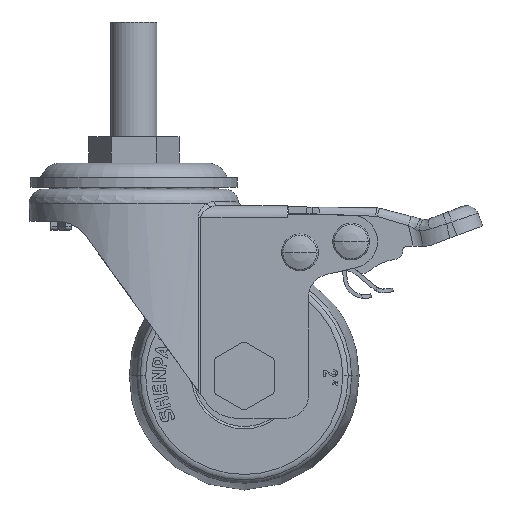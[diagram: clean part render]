
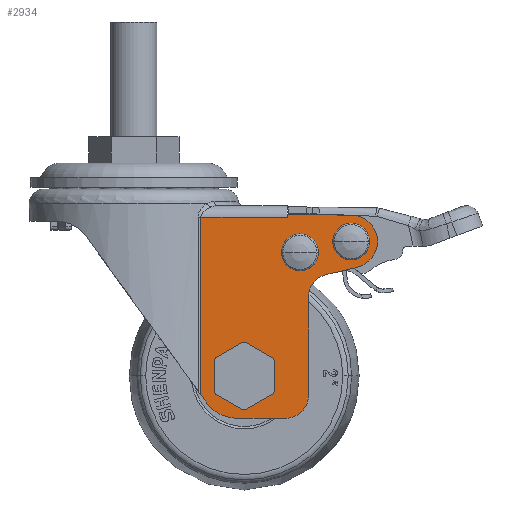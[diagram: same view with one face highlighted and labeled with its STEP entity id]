
A CAD part, front view. The second image highlights one B-rep face of the part: STEP entity #2934.
In plain terms, the highlighted planar face has unit normal (0, -1, 0).
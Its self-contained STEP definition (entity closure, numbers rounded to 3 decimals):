
#2934=ADVANCED_FACE('',(#7941,#7942,#7943,#7944),#4183,.T.);
#4183=PLANE('',#22809);
#4783=LINE('',#30585,#6323);
#4784=LINE('',#30590,#6324);
#4785=LINE('',#30594,#6325);
#4786=LINE('',#30598,#6326);
#4787=LINE('',#30602,#6327);
#4788=LINE('',#30604,#6328);
#4789=LINE('',#30606,#6329);
#4790=LINE('',#30608,#6330);
#4791=LINE('',#30613,#6331);
#4792=LINE('',#30618,#6332);
#4793=LINE('',#30622,#6333);
#4794=LINE('',#30626,#6334);
#4795=LINE('',#30630,#6335);
#4796=LINE('',#30634,#6336);
#6323=VECTOR('',#24856,1.);
#6324=VECTOR('',#24859,1.);
#6325=VECTOR('',#24862,1.);
#6326=VECTOR('',#24865,1.);
#6327=VECTOR('',#24868,1.);
#6328=VECTOR('',#24869,1.);
#6329=VECTOR('',#24870,1.);
#6330=VECTOR('',#24871,1.);
#6331=VECTOR('',#24876,1.);
#6332=VECTOR('',#24879,1.);
#6333=VECTOR('',#24882,1.);
#6334=VECTOR('',#24885,1.);
#6335=VECTOR('',#24888,1.);
#6336=VECTOR('',#24891,1.);
#7941=FACE_BOUND('',#8166,.T.);
#7942=FACE_BOUND('',#8167,.T.);
#7943=FACE_BOUND('',#8168,.T.);
#7944=FACE_BOUND('',#8169,.T.);
#8166=EDGE_LOOP('',(#9549,#9550));
#8167=EDGE_LOOP('',(#9551,#9552,#9553,#9554,#9555,#9556,#9557,#9558,#9559,
#9560,#9561,#9562));
#8168=EDGE_LOOP('',(#9563,#9564));
#8169=EDGE_LOOP('',(#9565,#9566,#9567,#9568,#9569,#9570,#9571,#9572,#9573,
#9574,#9575,#9576));
#9549=ORIENTED_EDGE('',*,*,#18559,.F.);
#9550=ORIENTED_EDGE('',*,*,#18560,.T.);
#9551=ORIENTED_EDGE('',*,*,#18561,.T.);
#9552=ORIENTED_EDGE('',*,*,#18562,.T.);
#9553=ORIENTED_EDGE('',*,*,#18563,.T.);
#9554=ORIENTED_EDGE('',*,*,#18564,.T.);
#9555=ORIENTED_EDGE('',*,*,#18565,.T.);
#9556=ORIENTED_EDGE('',*,*,#18566,.T.);
#9557=ORIENTED_EDGE('',*,*,#18567,.T.);
#9558=ORIENTED_EDGE('',*,*,#18568,.T.);
#9559=ORIENTED_EDGE('',*,*,#18569,.T.);
#9560=ORIENTED_EDGE('',*,*,#18570,.F.);
#9561=ORIENTED_EDGE('',*,*,#18571,.T.);
#9562=ORIENTED_EDGE('',*,*,#18572,.T.);
#9563=ORIENTED_EDGE('',*,*,#18573,.F.);
#9564=ORIENTED_EDGE('',*,*,#18574,.T.);
#9565=ORIENTED_EDGE('',*,*,#18575,.F.);
#9566=ORIENTED_EDGE('',*,*,#18576,.T.);
#9567=ORIENTED_EDGE('',*,*,#18577,.F.);
#9568=ORIENTED_EDGE('',*,*,#18578,.T.);
#9569=ORIENTED_EDGE('',*,*,#18579,.F.);
#9570=ORIENTED_EDGE('',*,*,#18580,.T.);
#9571=ORIENTED_EDGE('',*,*,#18581,.F.);
#9572=ORIENTED_EDGE('',*,*,#18582,.T.);
#9573=ORIENTED_EDGE('',*,*,#18583,.F.);
#9574=ORIENTED_EDGE('',*,*,#18584,.T.);
#9575=ORIENTED_EDGE('',*,*,#18585,.F.);
#9576=ORIENTED_EDGE('',*,*,#18586,.T.);
#16331=VERTEX_POINT('',#30582);
#16332=VERTEX_POINT('',#30583);
#16333=VERTEX_POINT('',#30586);
#16334=VERTEX_POINT('',#30587);
#16335=VERTEX_POINT('',#30589);
#16336=VERTEX_POINT('',#30591);
#16337=VERTEX_POINT('',#30593);
#16338=VERTEX_POINT('',#30595);
#16339=VERTEX_POINT('',#30597);
#16340=VERTEX_POINT('',#30599);
#16341=VERTEX_POINT('',#30601);
#16342=VERTEX_POINT('',#30603);
#16343=VERTEX_POINT('',#30605);
#16344=VERTEX_POINT('',#30607);
#16345=VERTEX_POINT('',#30610);
#16346=VERTEX_POINT('',#30611);
#16347=VERTEX_POINT('',#30614);
#16348=VERTEX_POINT('',#30615);
#16349=VERTEX_POINT('',#30617);
#16350=VERTEX_POINT('',#30619);
#16351=VERTEX_POINT('',#30621);
#16352=VERTEX_POINT('',#30623);
#16353=VERTEX_POINT('',#30625);
#16354=VERTEX_POINT('',#30627);
#16355=VERTEX_POINT('',#30629);
#16356=VERTEX_POINT('',#30631);
#16357=VERTEX_POINT('',#30633);
#16358=VERTEX_POINT('',#30635);
#18559=EDGE_CURVE('',#16331,#16332,#21950,.T.);
#18560=EDGE_CURVE('',#16331,#16332,#21951,.T.);
#18561=EDGE_CURVE('',#16333,#16334,#4783,.T.);
#18562=EDGE_CURVE('',#16334,#16335,#21952,.T.);
#18563=EDGE_CURVE('',#16335,#16336,#4784,.T.);
#18564=EDGE_CURVE('',#16336,#16337,#21953,.T.);
#18565=EDGE_CURVE('',#16337,#16338,#4785,.T.);
#18566=EDGE_CURVE('',#16338,#16339,#21954,.T.);
#18567=EDGE_CURVE('',#16339,#16340,#4786,.T.);
#18568=EDGE_CURVE('',#16340,#16341,#21955,.T.);
#18569=EDGE_CURVE('',#16341,#16342,#4787,.T.);
#18570=EDGE_CURVE('',#16343,#16342,#4788,.T.);
#18571=EDGE_CURVE('',#16343,#16344,#4789,.T.);
#18572=EDGE_CURVE('',#16344,#16333,#4790,.T.);
#18573=EDGE_CURVE('',#16345,#16346,#21956,.T.);
#18574=EDGE_CURVE('',#16345,#16346,#21957,.T.);
#18575=EDGE_CURVE('',#16347,#16348,#4791,.T.);
#18576=EDGE_CURVE('',#16347,#16349,#21958,.T.);
#18577=EDGE_CURVE('',#16350,#16349,#4792,.T.);
#18578=EDGE_CURVE('',#16350,#16351,#21959,.T.);
#18579=EDGE_CURVE('',#16352,#16351,#4793,.T.);
#18580=EDGE_CURVE('',#16352,#16353,#21960,.T.);
#18581=EDGE_CURVE('',#16354,#16353,#4794,.T.);
#18582=EDGE_CURVE('',#16354,#16355,#21961,.T.);
#18583=EDGE_CURVE('',#16356,#16355,#4795,.T.);
#18584=EDGE_CURVE('',#16356,#16357,#21962,.T.);
#18585=EDGE_CURVE('',#16358,#16357,#4796,.T.);
#18586=EDGE_CURVE('',#16358,#16348,#21963,.T.);
#21950=CIRCLE('',#22795,4.);
#21951=CIRCLE('',#22796,4.);
#21952=CIRCLE('',#22797,8.);
#21953=CIRCLE('',#22798,5.);
#21954=CIRCLE('',#22799,5.);
#21955=CIRCLE('',#22800,5.75);
#21956=CIRCLE('',#22801,4.);
#21957=CIRCLE('',#22802,4.);
#21958=CIRCLE('',#22803,1.);
#21959=CIRCLE('',#22804,1.);
#21960=CIRCLE('',#22805,1.);
#21961=CIRCLE('',#22806,1.);
#21962=CIRCLE('',#22807,1.);
#21963=CIRCLE('',#22808,1.);
#22795=AXIS2_PLACEMENT_3D('',#30581,#24852,#24853);
#22796=AXIS2_PLACEMENT_3D('',#30584,#24854,#24855);
#22797=AXIS2_PLACEMENT_3D('',#30588,#24857,#24858);
#22798=AXIS2_PLACEMENT_3D('',#30592,#24860,#24861);
#22799=AXIS2_PLACEMENT_3D('',#30596,#24863,#24864);
#22800=AXIS2_PLACEMENT_3D('',#30600,#24866,#24867);
#22801=AXIS2_PLACEMENT_3D('',#30609,#24872,#24873);
#22802=AXIS2_PLACEMENT_3D('',#30612,#24874,#24875);
#22803=AXIS2_PLACEMENT_3D('',#30616,#24877,#24878);
#22804=AXIS2_PLACEMENT_3D('',#30620,#24880,#24881);
#22805=AXIS2_PLACEMENT_3D('',#30624,#24883,#24884);
#22806=AXIS2_PLACEMENT_3D('',#30628,#24886,#24887);
#22807=AXIS2_PLACEMENT_3D('',#30632,#24889,#24890);
#22808=AXIS2_PLACEMENT_3D('',#30636,#24892,#24893);
#22809=AXIS2_PLACEMENT_3D('',#30637,#24894,#24895);
#24852=DIRECTION('',(0.,-1.,0.));
#24853=DIRECTION('',(1.,0.,0.));
#24854=DIRECTION('',(0.,1.,0.));
#24855=DIRECTION('',(1.,0.,0.));
#24856=DIRECTION('',(0.587,0.,-0.81));
#24857=DIRECTION('',(0.,-1.,0.));
#24858=DIRECTION('',(-0.81,0.,-0.587));
#24859=DIRECTION('',(1.,0.,0.));
#24860=DIRECTION('',(0.,-1.,0.));
#24861=DIRECTION('',(0.,0.,-1.));
#24862=DIRECTION('',(0.,0.,1.));
#24863=DIRECTION('',(0.,1.,0.));
#24864=DIRECTION('',(-1.,0.,0.));
#24865=DIRECTION('',(0.974,0.,0.228));
#24866=DIRECTION('',(0.,-1.,0.));
#24867=DIRECTION('',(0.228,0.,-0.974));
#24868=DIRECTION('',(-1.,0.,0.01));
#24869=DIRECTION('',(0.,0.,1.));
#24870=DIRECTION('',(-1.,0.,0.));
#24871=DIRECTION('',(0.,0.,-1.));
#24872=DIRECTION('',(0.,-1.,0.));
#24873=DIRECTION('',(1.,0.,0.));
#24874=DIRECTION('',(0.,1.,0.));
#24875=DIRECTION('',(1.,0.,0.));
#24876=DIRECTION('',(0.866,0.,0.5));
#24877=DIRECTION('',(0.,1.,0.));
#24878=DIRECTION('',(0.5,0.,-0.866));
#24879=DIRECTION('',(0.866,0.,-0.5));
#24880=DIRECTION('',(0.,1.,0.));
#24881=DIRECTION('',(-0.5,0.,-0.866));
#24882=DIRECTION('',(0.,0.,-1.));
#24883=DIRECTION('',(0.,1.,0.));
#24884=DIRECTION('',(-1.,0.,0.));
#24885=DIRECTION('',(-0.866,0.,-0.5));
#24886=DIRECTION('',(0.,1.,0.));
#24887=DIRECTION('',(-0.5,0.,0.866));
#24888=DIRECTION('',(-0.866,0.,0.5));
#24889=DIRECTION('',(0.,1.,0.));
#24890=DIRECTION('',(0.5,0.,0.866));
#24891=DIRECTION('',(0.,0.,1.));
#24892=DIRECTION('',(0.,1.,0.));
#24893=DIRECTION('',(1.,0.,0.));
#24894=DIRECTION('',(0.,-1.,0.));
#24895=DIRECTION('',(1.,0.,0.));
#30581=CARTESIAN_POINT('',(47.256,-17.75,-47.767));
#30582=CARTESIAN_POINT('',(51.256,-17.75,-47.767));
#30583=CARTESIAN_POINT('',(43.256,-17.75,-47.767));
#30584=CARTESIAN_POINT('',(47.256,-17.75,-47.767));
#30585=CARTESIAN_POINT('',(14.577,-17.75,-81.089));
#30586=CARTESIAN_POINT('',(14.577,-17.75,-81.089));
#30587=CARTESIAN_POINT('',(15.888,-17.75,-82.896));
#30588=CARTESIAN_POINT('',(22.364,-17.75,-78.2));
#30589=CARTESIAN_POINT('',(22.364,-17.75,-86.2));
#30590=CARTESIAN_POINT('',(22.364,-17.75,-86.2));
#30591=CARTESIAN_POINT('',(33.,-17.75,-86.2));
#30592=CARTESIAN_POINT('',(33.,-17.75,-81.2));
#30593=CARTESIAN_POINT('',(38.,-17.75,-81.2));
#30594=CARTESIAN_POINT('',(38.,-17.75,-81.2));
#30595=CARTESIAN_POINT('',(38.,-17.75,-59.801));
#30596=CARTESIAN_POINT('',(43.,-17.75,-59.801));
#30597=CARTESIAN_POINT('',(42.006,-17.75,-54.9));
#30598=CARTESIAN_POINT('',(42.006,-17.75,-54.9));
#30599=CARTESIAN_POINT('',(48.565,-17.75,-53.366));
#30600=CARTESIAN_POINT('',(47.256,-17.75,-47.767));
#30601=CARTESIAN_POINT('',(47.312,-17.75,-42.018));
#30602=CARTESIAN_POINT('',(47.312,-17.75,-42.018));
#30603=CARTESIAN_POINT('',(33.372,-17.75,-41.881));
#30604=CARTESIAN_POINT('',(33.372,-17.75,-42.5));
#30605=CARTESIAN_POINT('',(33.372,-17.75,-42.5));
#30606=CARTESIAN_POINT('',(28.,-17.75,-42.5));
#30607=CARTESIAN_POINT('',(14.577,-17.75,-42.5));
#30608=CARTESIAN_POINT('',(14.577,-17.75,-78.));
#30609=CARTESIAN_POINT('',(36.12,-17.75,-50.108));
#30610=CARTESIAN_POINT('',(40.12,-17.75,-50.108));
#30611=CARTESIAN_POINT('',(32.12,-17.75,-50.108));
#30612=CARTESIAN_POINT('',(36.12,-17.75,-50.108));
#30613=CARTESIAN_POINT('',(24.5,-17.75,-84.217));
#30614=CARTESIAN_POINT('',(24.5,-17.75,-84.217));
#30615=CARTESIAN_POINT('',(30.,-17.75,-81.041));
#30616=CARTESIAN_POINT('',(24.,-17.75,-83.351));
#30617=CARTESIAN_POINT('',(23.5,-17.75,-84.217));
#30618=CARTESIAN_POINT('',(18.,-17.75,-81.041));
#30619=CARTESIAN_POINT('',(18.,-17.75,-81.041));
#30620=CARTESIAN_POINT('',(18.5,-17.75,-80.175));
#30621=CARTESIAN_POINT('',(17.5,-17.75,-80.175));
#30622=CARTESIAN_POINT('',(17.5,-17.75,-73.825));
#30623=CARTESIAN_POINT('',(17.5,-17.75,-73.825));
#30624=CARTESIAN_POINT('',(18.5,-17.75,-73.825));
#30625=CARTESIAN_POINT('',(18.,-17.75,-72.959));
#30626=CARTESIAN_POINT('',(23.5,-17.75,-69.783));
#30627=CARTESIAN_POINT('',(23.5,-17.75,-69.783));
#30628=CARTESIAN_POINT('',(24.,-17.75,-70.649));
#30629=CARTESIAN_POINT('',(24.5,-17.75,-69.783));
#30630=CARTESIAN_POINT('',(30.,-17.75,-72.959));
#30631=CARTESIAN_POINT('',(30.,-17.75,-72.959));
#30632=CARTESIAN_POINT('',(29.5,-17.75,-73.825));
#30633=CARTESIAN_POINT('',(30.5,-17.75,-73.825));
#30634=CARTESIAN_POINT('',(30.5,-17.75,-80.175));
#30635=CARTESIAN_POINT('',(30.5,-17.75,-80.175));
#30636=CARTESIAN_POINT('',(29.5,-17.75,-80.175));
#30637=CARTESIAN_POINT('',(28.,-17.75,-78.));
